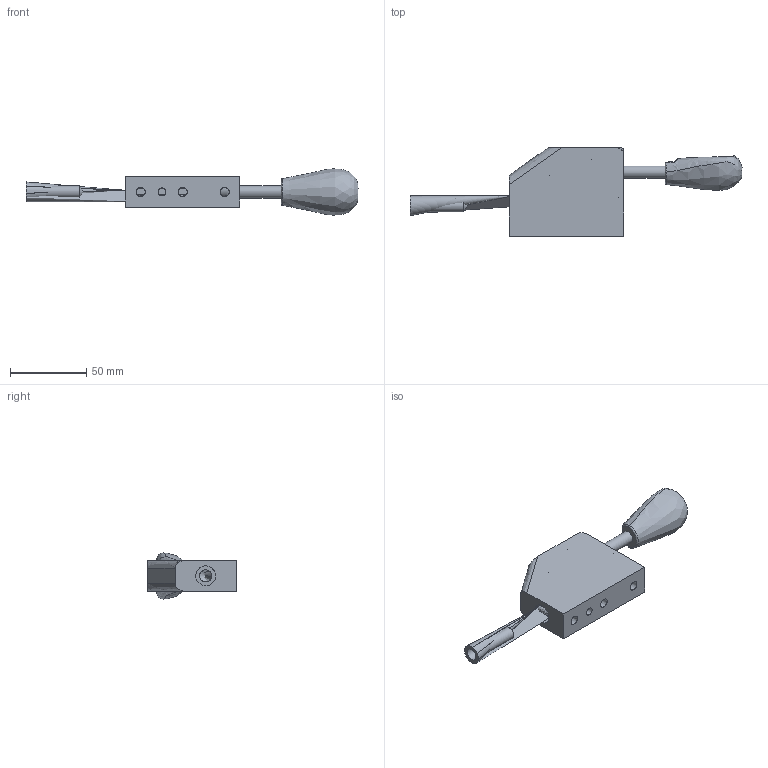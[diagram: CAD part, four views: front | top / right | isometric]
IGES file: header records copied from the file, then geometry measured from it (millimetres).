
Global section: file name: YSP-50ST-CLAMP; native system: Autodesk Inventor 2019; preprocessor: unknown; author: 桶田 勝弘,,11,0, ; organization: 20180111.003651; date: 20240514.173240; units: millimetre
Bounding box: 217.25 x 58 x 30.18 mm (x, y, z)
Volume: 99793.4 mm3; surface area: 38483.1 mm2
Topology: 5 solids, 5 shells, 193 faces, 534 edges, 354 vertices
Faces by surface type: bspline 193
